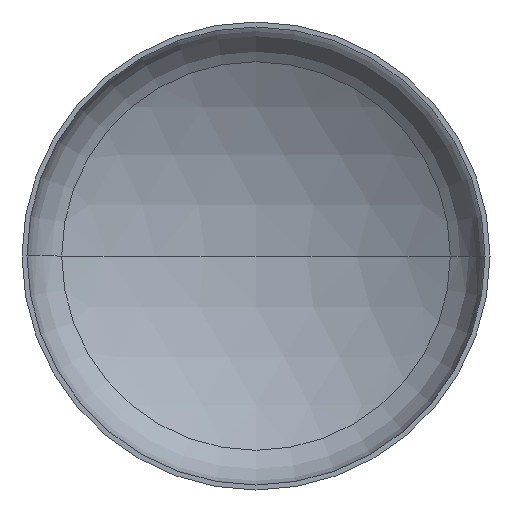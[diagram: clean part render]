
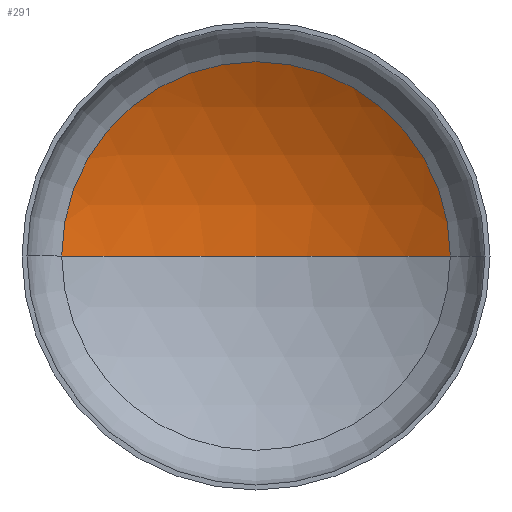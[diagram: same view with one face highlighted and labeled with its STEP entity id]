
A CAD part, front view. The second image highlights one B-rep face of the part: STEP entity #291.
In plain terms, the highlighted spherical face has radius 4800 mm.
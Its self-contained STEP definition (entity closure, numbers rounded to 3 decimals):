
#2 = CIRCLE ( 'NONE', #91, 2491.045 ) ;
#6 = ORIENTED_EDGE ( 'NONE', *, *, #174, .F. ) ;
#7 = DIRECTION ( 'NONE',  ( 1., 0., 0. ) ) ;
#10 = VERTEX_POINT ( 'NONE', #294 ) ;
#11 = DIRECTION ( 'NONE',  ( 0., 0., 1. ) ) ;
#25 = CARTESIAN_POINT ( 'NONE',  ( 0., -3192.326, 0. ) ) ;
#26 = AXIS2_PLACEMENT_3D ( 'NONE', #40, #131, #173 ) ;
#27 = CARTESIAN_POINT ( 'NONE',  ( 0., -3192.326, 0. ) ) ;
#40 = CARTESIAN_POINT ( 'NONE',  ( 0., -3192.326, 0. ) ) ;
#41 = VERTEX_POINT ( 'NONE', #270 ) ;
#53 = DIRECTION ( 'NONE',  ( -1., 0., 0. ) ) ;
#55 = DIRECTION ( 'NONE',  ( 0., 0., -1. ) ) ;
#79 = EDGE_LOOP ( 'NONE', ( #6, #114, #103 ) ) ;
#81 = AXIS2_PLACEMENT_3D ( 'NONE', #25, #11, #7 ) ;
#89 = AXIS2_PLACEMENT_3D ( 'NONE', #27, #55, #53 ) ;
#91 = AXIS2_PLACEMENT_3D ( 'NONE', #325, #185, #343 ) ;
#103 = ORIENTED_EDGE ( 'NONE', *, *, #169, .T. ) ;
#111 = SPHERICAL_SURFACE ( 'NONE', #26, 4800. ) ;
#114 = ORIENTED_EDGE ( 'NONE', *, *, #170, .T. ) ;
#131 = DIRECTION ( 'NONE',  ( 0., 0., -1. ) ) ;
#142 = VERTEX_POINT ( 'NONE', #351 ) ;
#169 = EDGE_CURVE ( 'NONE', #10, #142, #2, .T. ) ;
#170 = EDGE_CURVE ( 'NONE', #41, #10, #240, .T. ) ;
#173 = DIRECTION ( 'NONE',  ( -1., 0., 0. ) ) ;
#174 = EDGE_CURVE ( 'NONE', #41, #142, #401, .T. ) ;
#185 = DIRECTION ( 'NONE',  ( 0., -1., 0. ) ) ;
#240 = CIRCLE ( 'NONE', #89, 4800. ) ;
#270 = CARTESIAN_POINT ( 'NONE',  ( 0., 1607.674, 0. ) ) ;
#274 = FACE_OUTER_BOUND ( 'NONE', #79, .T. ) ;
#291 = ADVANCED_FACE ( 'NONE', ( #274 ), #111, .F. ) ;
#294 = CARTESIAN_POINT ( 'NONE',  ( 2491.045, 910.684, 0. ) ) ;
#325 = CARTESIAN_POINT ( 'NONE',  ( 0., 910.684, 0. ) ) ;
#343 = DIRECTION ( 'NONE',  ( 1., 0., 0. ) ) ;
#351 = CARTESIAN_POINT ( 'NONE',  ( -2491.045, 910.684, 0. ) ) ;
#401 = CIRCLE ( 'NONE', #81, 4800. ) ;
